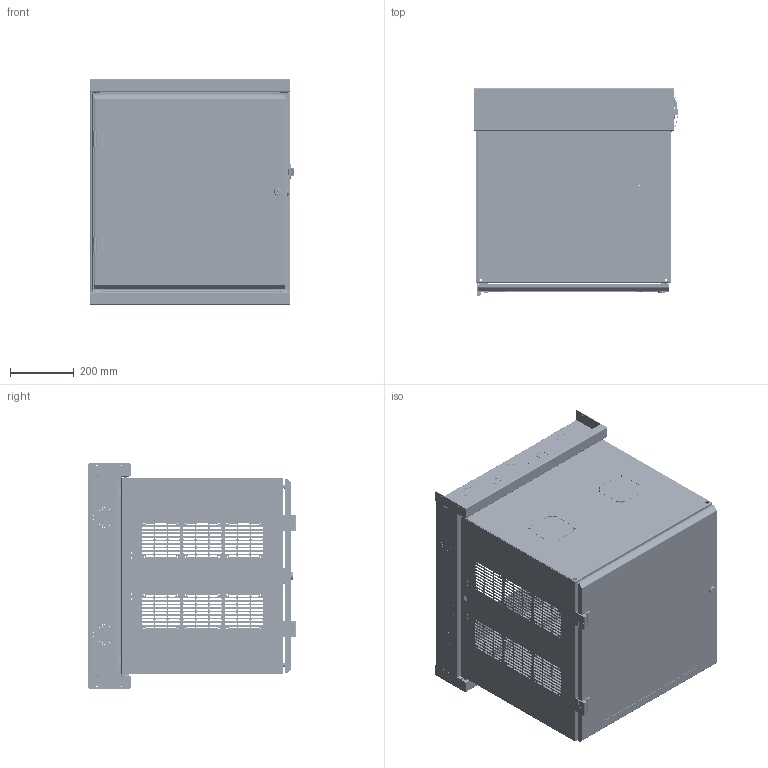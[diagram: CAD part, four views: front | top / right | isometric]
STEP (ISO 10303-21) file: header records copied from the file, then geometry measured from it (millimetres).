
FILE_DESCRIPTION(/* description */ ('Unknown'),/* implementation_level */ '2;1');
FILE_NAME(/* name */ 'HWM2412U20WDBK',/* time_stamp */ '2024-07-29T11:42:40-04:00',/* author */ ('Unknown'),/* organization */ ('Unknown'),/* preprocessor_version */ 'ST-DEVELOPER v18.104',/* originating_system */ 'Solid Edge',/* authorisation */ 'Unknown');
FILE_SCHEMA (('AUTOMOTIVE_DESIGN {1 0 10303 214 3 1 1}'));
Products named in the file (49): HWM2412U20WD; COM57687-2; COM56894-2T; STD21878; COM57684-2; HNG14583; COM54375; COM57382-21; COM57384-1; COM57383-1; BSH87667; COM56897-1; FET07734; STR22105; CCH03747; CCH03748-10deg; CCH03748D; CCH03748B; CCH03748E; CCH03748A; CCH03748C; COM56905; LOC13349; LOC13349B; LOC13349A; LAB20204; COM57690-12U; FET07750; COM56910-1; COM57690-1; std26020; COM57333-41; LOC13410; LOC13410B; HNG14605; HNG14605-1; HNG14604-1A; HNG14604-1B; HNG14605-1C; HNG14604-2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
Assembly tree (80 placements, depth 5):
  HWM2412U20WD
    COM57687-2
      COM56894-2T  x2
        STD21878
        COM56894-2T
      COM57684-2  x2
      HNG14583
      COM54375
    COM57382-21
      COM57384-1  x2
      COM57383-1  x2
        STD21878
        COM57383-1
      BSH87667  x4
    COM56897-1  x2
    FET07734  x4
    STR22105
    CCH03747
    CCH03748-10deg
      CCH03748D
      CCH03748B
      CCH03748E
      CCH03748A
      CCH03748C
    COM56905
    LOC13349
      LOC13349B
      LOC13349A
    LAB20204
    COM57690-12U
      FET07750  x2
      COM56910-1  x2
      COM57690-1
        COM57690-1
        std26020  x6
      COM57333-41
      LOC13410
        LOC13410B
        LOC13349A
      HNG14605
        HNG14605-1
          HNG14604-1A
          HNG14604-1B
          HNG14605-1C
        HNG14604-2  x2
        HNG14605-3
      HNG14604
        HNG14604-3
        HNG14604-2  x2
        HNG14604-1
          HNG14604-1A
          HNG14604-1B
          HNG14604-1C
      NTS17050  x4
Bounding box: 641.2 x 654.87 x 706.42 mm (x, y, z)
Volume: 5385529.2 mm3; surface area: 6287904.4 mm2
Topology: 73 solids, 73 shells, 5032 faces, 13891 edges, 9252 vertices
Faces by surface type: plane 3060, cylinder 1854, bspline 53, cone 44, torus 17, sphere 4
Full cylindrical faces by diameter (mm): 2.54 x2, 3.048 x2, 3.175 x30, 3.454 x4, 3.962 x8, 3.967 x4, 4.039 x8, 4.297 x2, 4.496 x72, 4.775 x56, 4.978 x1, 5.334 x6, 5.461 x2, 5.537 x8, 6 x4, 6.02 x2, 6.1 x2, 6.2 x8, 6.35 x20, 7.137 x8, 7.938 x12, 8.992 x2, 9.246 x4, 9.95 x8, 10 x2, 10.312 x12, 11.125 x2, 11.684 x2, 12.7 x12, 13.005 x1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
Entity records: 91067 total; most frequent: CARTESIAN_POINT 18342, DIRECTION 14676, ORIENTED_EDGE 14506, EDGE_CURVE 7253, AXIS2_PLACEMENT_3D 4961, VERTEX_POINT 4920, LINE 4754, VECTOR 4754
